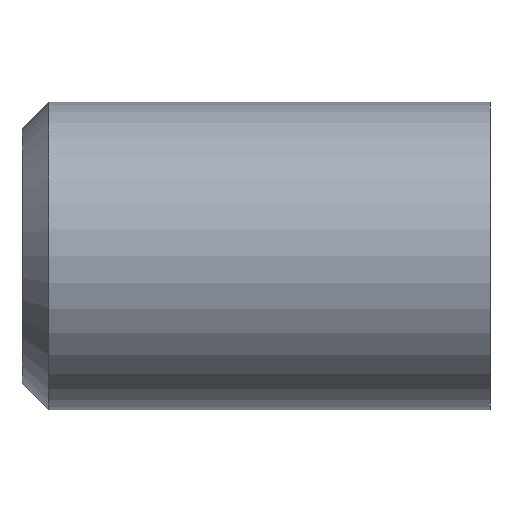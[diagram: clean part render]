
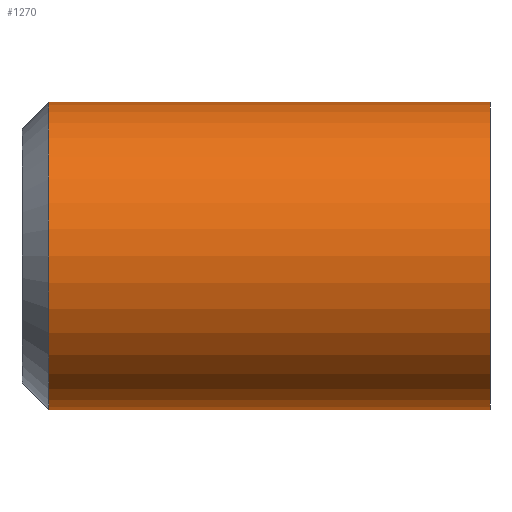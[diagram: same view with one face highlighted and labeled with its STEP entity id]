
A CAD part, front view. The second image highlights one B-rep face of the part: STEP entity #1270.
In plain terms, the highlighted cylindrical face has radius 11.5 mm (diameter 23 mm), a partial arc.
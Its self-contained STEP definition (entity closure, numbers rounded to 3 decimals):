
#7 = CARTESIAN_POINT ( 'NONE',  ( 15.8, 4.606, 0. ) ) ;
#51 = CIRCLE ( 'NONE', #100, 11.5 ) ;
#100 = AXIS2_PLACEMENT_3D ( 'NONE', #2048, #2408, #2398 ) ;
#519 = DIRECTION ( 'NONE',  ( -1., 0., 0. ) ) ;
#605 = AXIS2_PLACEMENT_3D ( 'NONE', #7, #1972, #1624 ) ;
#739 = CARTESIAN_POINT ( 'NONE',  ( -17.2, 4.606, -11.5 ) ) ;
#819 = VERTEX_POINT ( 'NONE', #2264 ) ;
#943 = EDGE_CURVE ( 'NONE', #819, #1082, #2051, .T. ) ;
#1004 = ORIENTED_EDGE ( 'NONE', *, *, #1185, .T. ) ;
#1009 = LINE ( 'NONE', #2269, #2374 ) ;
#1078 = ORIENTED_EDGE ( 'NONE', *, *, #1238, .T. ) ;
#1082 = VERTEX_POINT ( 'NONE', #739 ) ;
#1159 = EDGE_CURVE ( 'NONE', #1849, #1638, #1009, .T. ) ;
#1162 = CARTESIAN_POINT ( 'NONE',  ( 15.8, 4.606, 11.5 ) ) ;
#1185 = EDGE_CURVE ( 'NONE', #1638, #1082, #51, .T. ) ;
#1213 = ORIENTED_EDGE ( 'NONE', *, *, #943, .F. ) ;
#1238 = EDGE_CURVE ( 'NONE', #819, #1849, #1358, .T. ) ;
#1270 = ADVANCED_FACE ( 'NONE', ( #2142 ), #1762, .T. ) ;
#1358 = CIRCLE ( 'NONE', #605, 11.5 ) ;
#1419 = VECTOR ( 'NONE', #519, 1000. ) ;
#1505 = AXIS2_PLACEMENT_3D ( 'NONE', #1584, #1671, #2382 ) ;
#1528 = CARTESIAN_POINT ( 'NONE',  ( -26.255, 4.606, -11.5 ) ) ;
#1533 = EDGE_LOOP ( 'NONE', ( #1213, #1078, #1728, #1004 ) ) ;
#1584 = CARTESIAN_POINT ( 'NONE',  ( -26.255, 4.606, 0. ) ) ;
#1624 = DIRECTION ( 'NONE',  ( 0., 0., 1. ) ) ;
#1636 = DIRECTION ( 'NONE',  ( -1., 0., 0. ) ) ;
#1638 = VERTEX_POINT ( 'NONE', #2036 ) ;
#1671 = DIRECTION ( 'NONE',  ( -1., 0., 0. ) ) ;
#1728 = ORIENTED_EDGE ( 'NONE', *, *, #1159, .T. ) ;
#1762 = CYLINDRICAL_SURFACE ( 'NONE', #1505, 11.5 ) ;
#1849 = VERTEX_POINT ( 'NONE', #1162 ) ;
#1972 = DIRECTION ( 'NONE',  ( -1., 0., 0. ) ) ;
#2036 = CARTESIAN_POINT ( 'NONE',  ( -17.2, 4.606, 11.5 ) ) ;
#2048 = CARTESIAN_POINT ( 'NONE',  ( -17.2, 4.606, 0. ) ) ;
#2051 = LINE ( 'NONE', #1528, #1419 ) ;
#2142 = FACE_OUTER_BOUND ( 'NONE', #1533, .T. ) ;
#2264 = CARTESIAN_POINT ( 'NONE',  ( 15.8, 4.606, -11.5 ) ) ;
#2269 = CARTESIAN_POINT ( 'NONE',  ( -26.255, 4.606, 11.5 ) ) ;
#2374 = VECTOR ( 'NONE', #1636, 1000. ) ;
#2382 = DIRECTION ( 'NONE',  ( 0., 0., 1. ) ) ;
#2398 = DIRECTION ( 'NONE',  ( 0., 0., -1. ) ) ;
#2408 = DIRECTION ( 'NONE',  ( 1., 0., 0. ) ) ;
